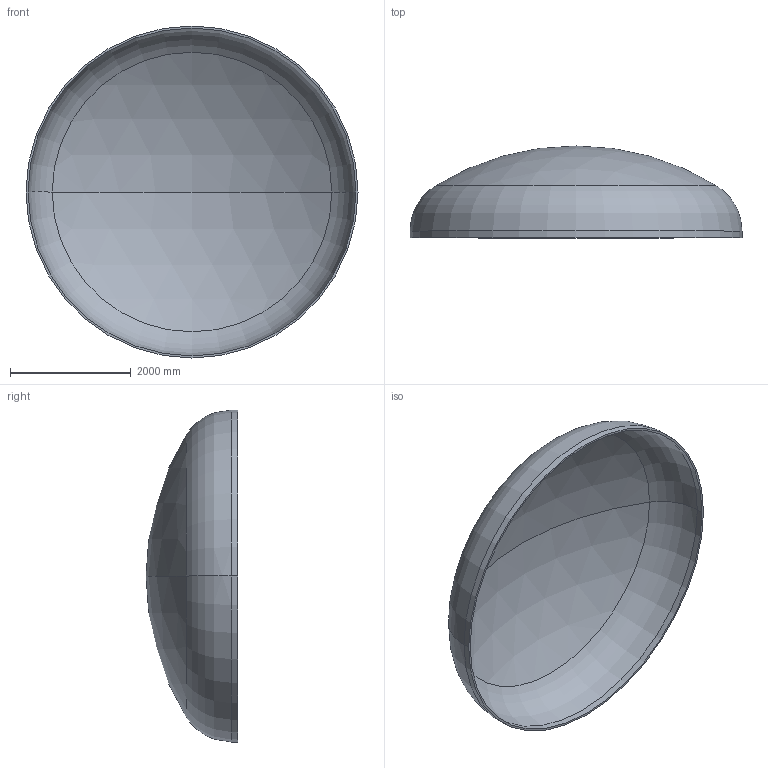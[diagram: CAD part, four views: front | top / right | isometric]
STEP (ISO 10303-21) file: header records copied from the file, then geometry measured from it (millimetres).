
FILE_DESCRIPTION (( 'STEP AP203' ), '1' );
FILE_NAME ('DIN 28013 Korbbogenform_-_Boden DIN 28013 - 5500 x 110 - I - s=34.step', '2016-07-04T10:33:57', ( '' ), ( '' ), 'SwSTEP 2.0', 'SolidWorks 2013', '' );
FILE_SCHEMA (( 'CONFIG_CONTROL_DESIGN' ));
Length unit declared in the file: millimetre
Products named in the file (1): DIN 28013 Korbbogenform_-_Boden DIN 28013 - 5500 x 110 - I - s=34
Bounding box: 5500 x 1521.19 x 5500 mm (x, y, z)
Volume: 1173394508.8 mm3; surface area: 69609446.8 mm2
Topology: 1 solids, 1 shells, 13 faces, 24 edges, 14 vertices
Faces by surface type: torus 4, cylinder 4, sphere 4, plane 1
Entity records: 407 total; most frequent: DIRECTION 72, CARTESIAN_POINT 52, ORIENTED_EDGE 48, AXIS2_PLACEMENT_3D 34, EDGE_CURVE 24, CIRCLE 20, VERTEX_POINT 14, EDGE_LOOP 14
